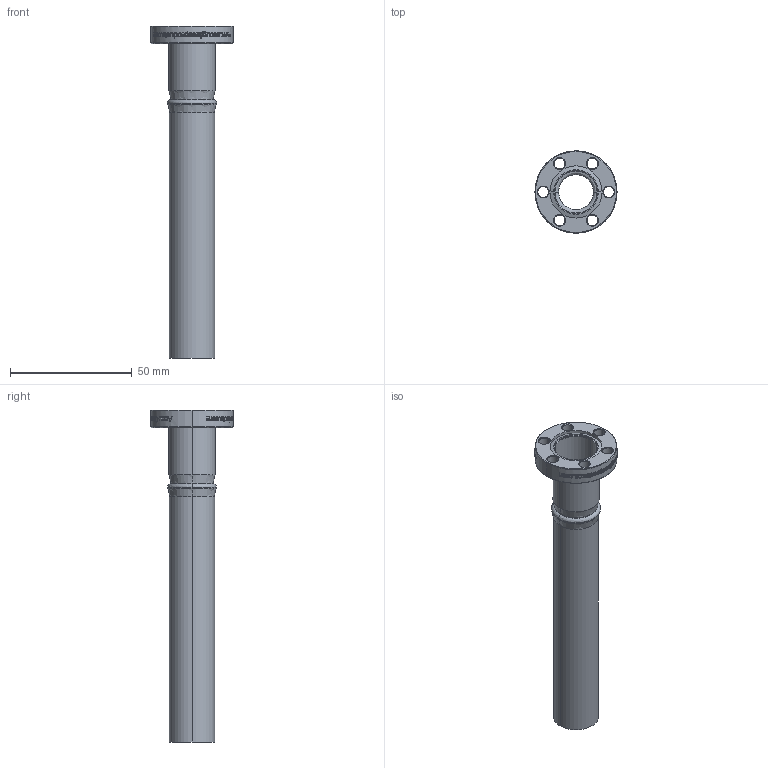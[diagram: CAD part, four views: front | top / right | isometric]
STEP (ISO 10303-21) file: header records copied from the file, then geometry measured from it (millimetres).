
FILE_DESCRIPTION (( 'STEP AP203' ), '1' );
FILE_NAME ('211017.stp', '2018-05-21T16:34:30', ( '' ), ( '' ), 'SwSTEP 2.0', 'SolidWorks 2012', '' );
FILE_SCHEMA (( 'CONFIG_CONTROL_DESIGN' ));
Length unit declared in the file: centimetre
Products named in the file (1): 211017
Bounding box: 33.78 x 33.78 x 136.53 mm (x, y, z)
Volume: 12603.3 mm3; surface area: 17262.1 mm2
Topology: 1 solids, 1 shells, 878 faces, 2394 edges, 1580 vertices
Faces by surface type: bspline 526, plane 232, cylinder 88, cone 32
Entity records: 64433 total; most frequent: CARTESIAN_POINT 45393, ORIENTED_EDGE 4788, DIRECTION 2432, EDGE_CURVE 2394, VERTEX_POINT 1580, B_SPLINE_CURVE_WITH_KNOTS 1028, VECTOR 1006, LINE 1006
